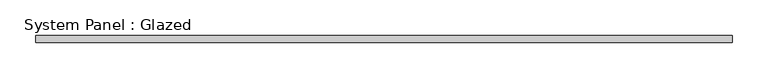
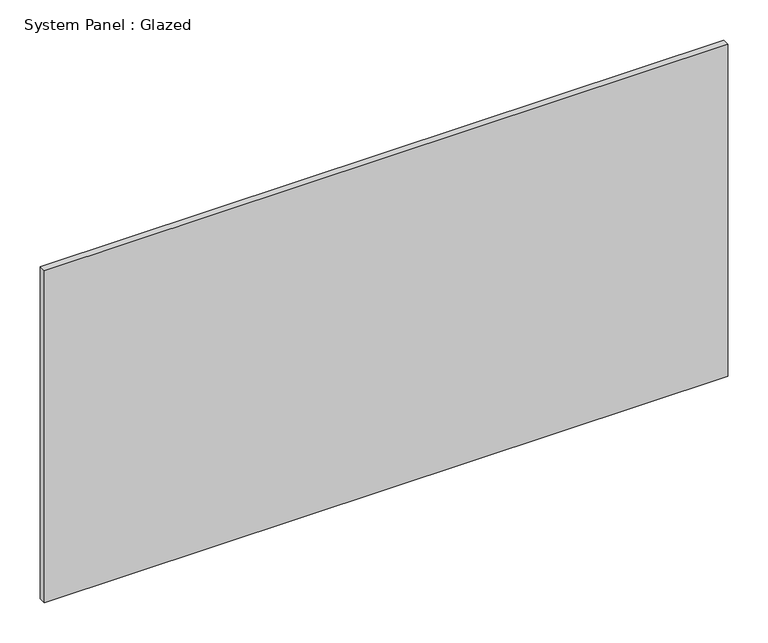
"""IFC4 building model written with IfcOpenShell, lengths in millimetres: plate geometry, System Panel : Glazed."""

from ifc_helpers import new_model, si_unit, origin, origin_with_axes, place, context, project, spatial, polyline, outline, extrude, source, transform, mapped, element, save


def system_panel_glazed_cf307010(model_context):
    return source(origin(), model_context, "Body", "SweptSolid", [
        extrude(outline(polyline([(490.0715634, -5.0), (-490.0715634, -5.0), (-490.0715634, 5.0), (490.0715634, 5.0), (490.0715634, -5.0)])), origin_with_axes(), (0.0, 0.0, 1.0), 503.3333333),
    ])


if __name__ == "__main__":
    model = new_model("IFC4")
    model_context = context("Model", 3, world=origin())
    ifc_project = project(units=[si_unit("LENGTHUNIT", "METRE", prefix="MILLI")], contexts=[model_context])
    site = spatial("IfcSite", under=ifc_project)
    building = spatial("IfcBuilding", under=site)
    placement = place(None, origin())
    system_panel_glazed_shape = system_panel_glazed_cf307010(model_context)
    element("IfcPlate", 1, ObjectType="System Panel : Glazed", at=placement, inside=building, context=model_context, shape_type="MappedRepresentation", body=[
        mapped(system_panel_glazed_shape, transform((0.0, 0.0, 0.0), x_axis=(1.0, 0.0, 0.0), y_axis=(0.0, 1.0, 0.0), z_axis=(0.0, 0.0, 1.0))),
    ])
    save(model, "model.ifc")
